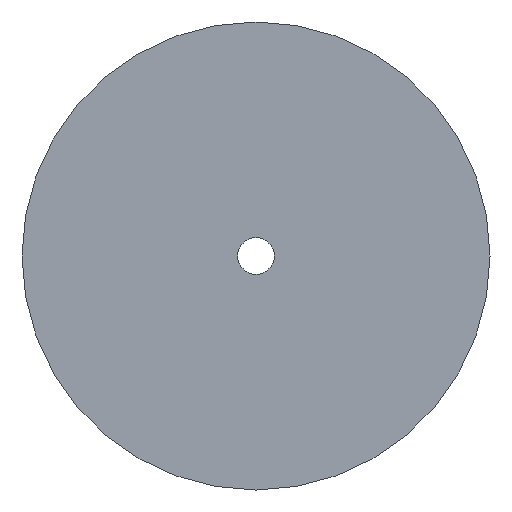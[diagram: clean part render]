
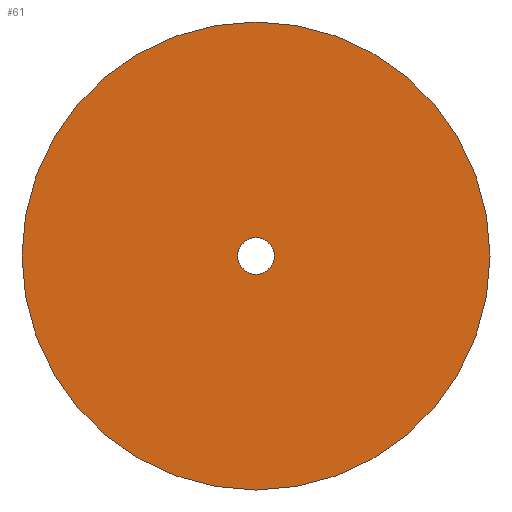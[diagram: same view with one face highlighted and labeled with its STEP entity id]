
A CAD part, front view. The second image highlights one B-rep face of the part: STEP entity #61.
In plain terms, the highlighted planar face has unit normal (0, -1, 0).
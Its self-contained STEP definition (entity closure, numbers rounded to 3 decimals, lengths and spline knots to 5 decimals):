
#61=ADVANCED_FACE('0:51',(#87,#88),#89,.F.);
#87=FACE_OUTER_BOUND('',#116,.T.);
#88=FACE_BOUND('',#117,.T.);
#89=PLANE('',#118);
#116=EDGE_LOOP('',(#193,#194));
#117=EDGE_LOOP('',(#195,#196));
#118=AXIS2_PLACEMENT_3D('',#197,#198,#199);
#193=ORIENTED_EDGE('',*,*,#231,.F.);
#194=ORIENTED_EDGE('',*,*,#209,.F.);
#195=ORIENTED_EDGE('',*,*,#227,.F.);
#196=ORIENTED_EDGE('',*,*,#217,.F.);
#197=CARTESIAN_POINT('',(0.0,-0.0115,0.0115));
#198=DIRECTION('',(-0.0,1.0,0.));
#199=DIRECTION('',(1.0,0.0,0.0));
#209=EDGE_CURVE('0:78',#232,#235,#236,.F.);
#217=EDGE_CURVE('0:63',#248,#251,#252,.T.);
#227=EDGE_CURVE('0:63',#251,#248,#267,.T.);
#231=EDGE_CURVE('0:78',#235,#232,#271,.F.);
#232=VERTEX_POINT('',#272);
#235=VERTEX_POINT('',#276);
#236=CIRCLE('',#277,0.07);
#248=VERTEX_POINT('',#292);
#251=VERTEX_POINT('',#296);
#252=CIRCLE('',#297,0.0055);
#267=CIRCLE('',#315,0.0055);
#271=CIRCLE('',#319,0.07);
#272=CARTESIAN_POINT('',(0.07,-0.0115,0.0115));
#276=CARTESIAN_POINT('',(-0.07,-0.0115,0.0115));
#277=AXIS2_PLACEMENT_3D('',#321,#322,#323);
#292=CARTESIAN_POINT('',(0.0055,-0.0115,0.0115));
#296=CARTESIAN_POINT('',(-0.0055,-0.0115,0.0115));
#297=AXIS2_PLACEMENT_3D('',#337,#338,#339);
#315=AXIS2_PLACEMENT_3D('',#361,#362,#363);
#319=AXIS2_PLACEMENT_3D('',#373,#374,#375);
#321=CARTESIAN_POINT('',(0.0,-0.0115,0.0115));
#322=DIRECTION('',(0.0,-1.0,0.));
#323=DIRECTION('',(1.0,0.0,0.0));
#337=CARTESIAN_POINT('',(0.0,-0.0115,0.0115));
#338=DIRECTION('',(0.0,-1.0,0.));
#339=DIRECTION('',(1.0,0.0,0.0));
#361=CARTESIAN_POINT('',(0.0,-0.0115,0.0115));
#362=DIRECTION('',(0.0,-1.0,0.));
#363=DIRECTION('',(1.0,0.0,0.0));
#373=CARTESIAN_POINT('',(0.0,-0.0115,0.0115));
#374=DIRECTION('',(0.0,-1.0,0.));
#375=DIRECTION('',(1.0,0.0,0.0));
